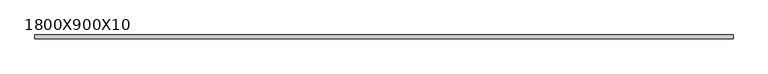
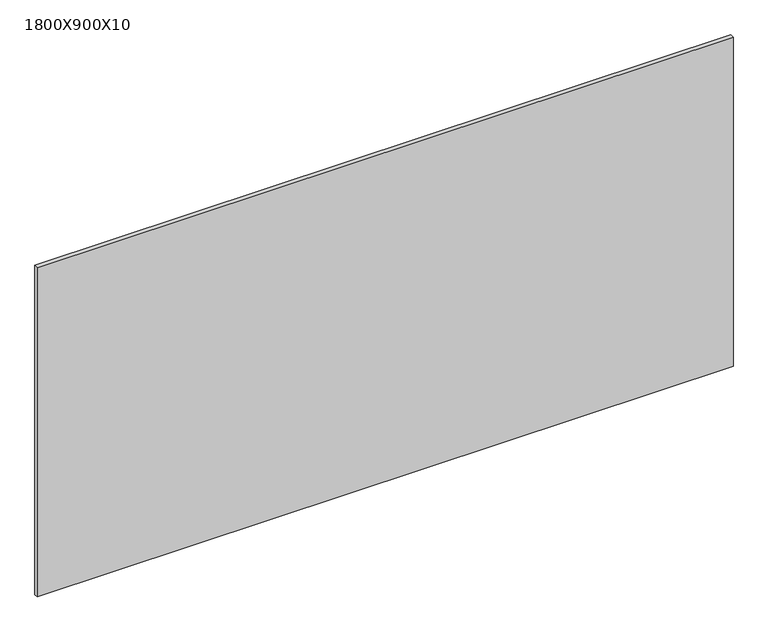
"""IFC4 building model written with IfcOpenShell, lengths in millimetres: furniture geometry, ARQ_MOB_ESPEJO_SOBREPUESTO : 1800X900X10."""

from ifc_helpers import new_model, si_unit, origin, origin_with_axes, place, context, project, spatial, polyline, outline, extrude, source, transform, mapped, element, save


def furniture_1800x900x10_4b911792(model_context):
    return source(origin(), model_context, "Body", "SweptSolid", [
        extrude(outline(polyline([(944.7003264, -10.0), (-855.2996736, -10.0), (-855.2996736, 0.0), (944.7003264, 0.0), (944.7003264, -10.0)])), origin_with_axes(), (0.0, 0.0, 1.0), 900.0),
    ])


if __name__ == "__main__":
    model = new_model("IFC4")
    model_context = context("Model", 3, world=origin())
    ifc_project = project(units=[si_unit("LENGTHUNIT", "METRE", prefix="MILLI")], contexts=[model_context])
    site = spatial("IfcSite", under=ifc_project)
    building = spatial("IfcBuilding", under=site)
    placement = place(None, origin())
    furniture_1800x900x10_shape = furniture_1800x900x10_4b911792(model_context)
    element("IfcFurniture", 1, ObjectType="ARQ_MOB_ESPEJO_SOBREPUESTO : 1800X900X10", at=placement, inside=building, context=model_context, shape_type="MappedRepresentation", body=[
        mapped(furniture_1800x900x10_shape, transform((0.0, 0.0, 0.0), x_axis=(1.0, 0.0, 0.0), y_axis=(0.0, 1.0, 0.0), z_axis=(0.0, 0.0, 1.0))),
    ])
    save(model, "model.ifc")
